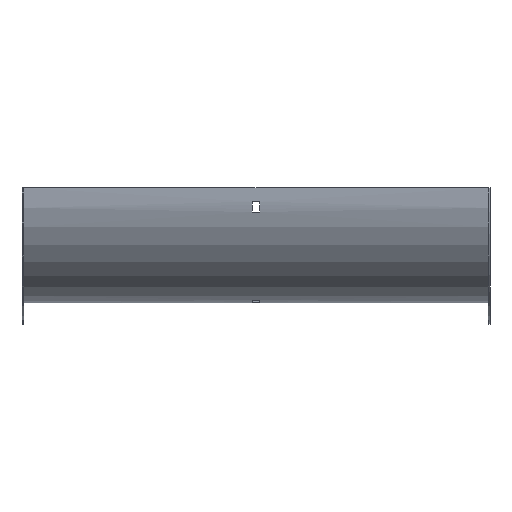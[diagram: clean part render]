
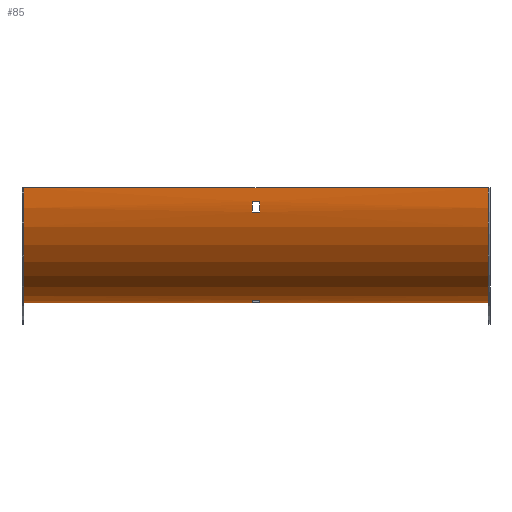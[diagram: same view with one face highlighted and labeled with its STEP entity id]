
A CAD part, front view. The second image highlights one B-rep face of the part: STEP entity #85.
In plain terms, the highlighted cylindrical face has radius 100 mm (diameter 200 mm), a partial arc.
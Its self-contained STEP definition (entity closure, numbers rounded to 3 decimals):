
#2 = CARTESIAN_POINT ( 'NONE',  ( -3.25, 98.5, 0. ) ) ;
#5 = EDGE_LOOP ( 'NONE', ( #455, #249, #542, #377 ) ) ;
#7 = VERTEX_POINT ( 'NONE', #507 ) ;
#8 = VECTOR ( 'NONE', #10, 1000. ) ;
#10 = DIRECTION ( 'NONE',  ( -1., 0., 0. ) ) ;
#16 = EDGE_LOOP ( 'NONE', ( #482, #252, #326, #65 ) ) ;
#26 = EDGE_CURVE ( 'NONE', #584, #77, #331, .T. ) ;
#28 = CARTESIAN_POINT ( 'NONE',  ( -3.25, 0.73, -21. ) ) ;
#29 = VERTEX_POINT ( 'NONE', #475 ) ;
#35 = FACE_OUTER_BOUND ( 'NONE', #5, .T. ) ;
#40 = EDGE_CURVE ( 'NONE', #7, #246, #580, .T. ) ;
#54 = CARTESIAN_POINT ( 'NONE',  ( 202., 98.5, 0. ) ) ;
#62 = ORIENTED_EDGE ( 'NONE', *, *, #396, .F. ) ;
#65 = ORIENTED_EDGE ( 'NONE', *, *, #429, .T. ) ;
#73 = VERTEX_POINT ( 'NONE', #547 ) ;
#77 = VERTEX_POINT ( 'NONE', #364 ) ;
#85 = ADVANCED_FACE ( 'NONE', ( #226, #35, #605 ), #600, .T. ) ;
#92 = LINE ( 'NONE', #424, #570 ) ;
#105 = EDGE_LOOP ( 'NONE', ( #540, #62, #578, #468 ) ) ;
#116 = VECTOR ( 'NONE', #366, 1000. ) ;
#124 = CIRCLE ( 'NONE', #228, 100. ) ;
#129 = EDGE_CURVE ( 'NONE', #29, #533, #333, .T. ) ;
#131 = DIRECTION ( 'NONE',  ( -1., 0., 0. ) ) ;
#132 = AXIS2_PLACEMENT_3D ( 'NONE', #54, #289, #527 ) ;
#137 = CARTESIAN_POINT ( 'NONE',  ( 203.5, 0.73, -21. ) ) ;
#147 = AXIS2_PLACEMENT_3D ( 'NONE', #248, #586, #577 ) ;
#153 = CARTESIAN_POINT ( 'NONE',  ( -3.25, 86.5, -99.277 ) ) ;
#162 = VERTEX_POINT ( 'NONE', #441 ) ;
#174 = DIRECTION ( 'NONE',  ( -1., 0., 0. ) ) ;
#187 = CARTESIAN_POINT ( 'NONE',  ( -202., 98.5, 0. ) ) ;
#194 = DIRECTION ( 'NONE',  ( 0., 0., 1. ) ) ;
#219 = DIRECTION ( 'NONE',  ( -1., 0., 0. ) ) ;
#220 = DIRECTION ( 'NONE',  ( -1., 0., 0. ) ) ;
#226 = FACE_BOUND ( 'NONE', #105, .T. ) ;
#228 = AXIS2_PLACEMENT_3D ( 'NONE', #277, #524, #194 ) ;
#246 = VERTEX_POINT ( 'NONE', #28 ) ;
#248 = CARTESIAN_POINT ( 'NONE',  ( 3.25, 98.5, 0. ) ) ;
#249 = ORIENTED_EDGE ( 'NONE', *, *, #299, .F. ) ;
#252 = ORIENTED_EDGE ( 'NONE', *, *, #317, .T. ) ;
#267 = DIRECTION ( 'NONE',  ( 1., 0., 0. ) ) ;
#275 = CARTESIAN_POINT ( 'NONE',  ( 203.5, 86.5, -99.277 ) ) ;
#277 = CARTESIAN_POINT ( 'NONE',  ( 3.25, 98.5, 0. ) ) ;
#282 = CARTESIAN_POINT ( 'NONE',  ( 203.5, 77.5, -97.77 ) ) ;
#289 = DIRECTION ( 'NONE',  ( -1., 0., 0. ) ) ;
#299 = EDGE_CURVE ( 'NONE', #162, #584, #92, .T. ) ;
#303 = CIRCLE ( 'NONE', #451, 100. ) ;
#312 = DIRECTION ( 'NONE',  ( -1., 0., 0. ) ) ;
#317 = EDGE_CURVE ( 'NONE', #504, #521, #303, .T. ) ;
#319 = DIRECTION ( 'NONE',  ( 0., 0., 1. ) ) ;
#326 = ORIENTED_EDGE ( 'NONE', *, *, #496, .T. ) ;
#330 = CARTESIAN_POINT ( 'NONE',  ( 203.5, -0.777, -12. ) ) ;
#331 = CIRCLE ( 'NONE', #361, 100. ) ;
#333 = CIRCLE ( 'NONE', #147, 100. ) ;
#342 = EDGE_CURVE ( 'NONE', #351, #504, #551, .T. ) ;
#347 = EDGE_CURVE ( 'NONE', #246, #29, #508, .T. ) ;
#351 = VERTEX_POINT ( 'NONE', #471 ) ;
#361 = AXIS2_PLACEMENT_3D ( 'NONE', #187, #312, #374 ) ;
#364 = CARTESIAN_POINT ( 'NONE',  ( -202., -1.5, 0. ) ) ;
#366 = DIRECTION ( 'NONE',  ( 1., 0., 0. ) ) ;
#369 = CARTESIAN_POINT ( 'NONE',  ( 203.5, 98.5, 0. ) ) ;
#374 = DIRECTION ( 'NONE',  ( 0., 0., 1. ) ) ;
#377 = ORIENTED_EDGE ( 'NONE', *, *, #433, .T. ) ;
#396 = EDGE_CURVE ( 'NONE', #533, #7, #515, .T. ) ;
#415 = EDGE_CURVE ( 'NONE', #162, #472, #567, .T. ) ;
#424 = CARTESIAN_POINT ( 'NONE',  ( 202., 98.5, -100. ) ) ;
#429 = EDGE_CURVE ( 'NONE', #73, #351, #124, .T. ) ;
#432 = VECTOR ( 'NONE', #131, 1000. ) ;
#433 = EDGE_CURVE ( 'NONE', #472, #77, #566, .T. ) ;
#436 = CARTESIAN_POINT ( 'NONE',  ( 202., -1.5, 0. ) ) ;
#441 = CARTESIAN_POINT ( 'NONE',  ( 202., 98.5, -100. ) ) ;
#451 = AXIS2_PLACEMENT_3D ( 'NONE', #2, #174, #469 ) ;
#455 = ORIENTED_EDGE ( 'NONE', *, *, #26, .F. ) ;
#468 = ORIENTED_EDGE ( 'NONE', *, *, #347, .F. ) ;
#469 = DIRECTION ( 'NONE',  ( 0., 1., 0. ) ) ;
#471 = CARTESIAN_POINT ( 'NONE',  ( 3.25, 86.5, -99.277 ) ) ;
#472 = VERTEX_POINT ( 'NONE', #518 ) ;
#475 = CARTESIAN_POINT ( 'NONE',  ( 3.25, 0.73, -21. ) ) ;
#477 = DIRECTION ( 'NONE',  ( -1., 0., 0. ) ) ;
#478 = AXIS2_PLACEMENT_3D ( 'NONE', #369, #219, #319 ) ;
#479 = DIRECTION ( 'NONE',  ( 1., 0., 0. ) ) ;
#482 = ORIENTED_EDGE ( 'NONE', *, *, #342, .T. ) ;
#487 = LINE ( 'NONE', #282, #555 ) ;
#493 = CARTESIAN_POINT ( 'NONE',  ( -3.25, 77.5, -97.77 ) ) ;
#496 = EDGE_CURVE ( 'NONE', #521, #73, #487, .T. ) ;
#504 = VERTEX_POINT ( 'NONE', #153 ) ;
#507 = CARTESIAN_POINT ( 'NONE',  ( -3.25, -0.777, -12. ) ) ;
#508 = LINE ( 'NONE', #137, #116 ) ;
#515 = LINE ( 'NONE', #330, #8 ) ;
#518 = CARTESIAN_POINT ( 'NONE',  ( 202., -1.5, 0. ) ) ;
#521 = VERTEX_POINT ( 'NONE', #493 ) ;
#524 = DIRECTION ( 'NONE',  ( 1., 0., 0. ) ) ;
#527 = DIRECTION ( 'NONE',  ( 0., 0., 1. ) ) ;
#533 = VERTEX_POINT ( 'NONE', #585 ) ;
#540 = ORIENTED_EDGE ( 'NONE', *, *, #40, .F. ) ;
#542 = ORIENTED_EDGE ( 'NONE', *, *, #415, .T. ) ;
#543 = CARTESIAN_POINT ( 'NONE',  ( -202., 98.5, -100. ) ) ;
#547 = CARTESIAN_POINT ( 'NONE',  ( 3.25, 77.5, -97.77 ) ) ;
#551 = LINE ( 'NONE', #275, #432 ) ;
#555 = VECTOR ( 'NONE', #479, 1000. ) ;
#556 = AXIS2_PLACEMENT_3D ( 'NONE', #561, #267, #598 ) ;
#561 = CARTESIAN_POINT ( 'NONE',  ( -3.25, 98.5, 0. ) ) ;
#566 = LINE ( 'NONE', #436, #576 ) ;
#567 = CIRCLE ( 'NONE', #132, 100. ) ;
#570 = VECTOR ( 'NONE', #220, 1000. ) ;
#576 = VECTOR ( 'NONE', #477, 1000. ) ;
#577 = DIRECTION ( 'NONE',  ( 0., 0., -1. ) ) ;
#578 = ORIENTED_EDGE ( 'NONE', *, *, #129, .F. ) ;
#580 = CIRCLE ( 'NONE', #556, 100. ) ;
#584 = VERTEX_POINT ( 'NONE', #543 ) ;
#585 = CARTESIAN_POINT ( 'NONE',  ( 3.25, -0.777, -12. ) ) ;
#586 = DIRECTION ( 'NONE',  ( -1., 0., 0. ) ) ;
#598 = DIRECTION ( 'NONE',  ( 0., 0., 1. ) ) ;
#600 = CYLINDRICAL_SURFACE ( 'NONE', #478, 100. ) ;
#605 = FACE_BOUND ( 'NONE', #16, .T. ) ;
